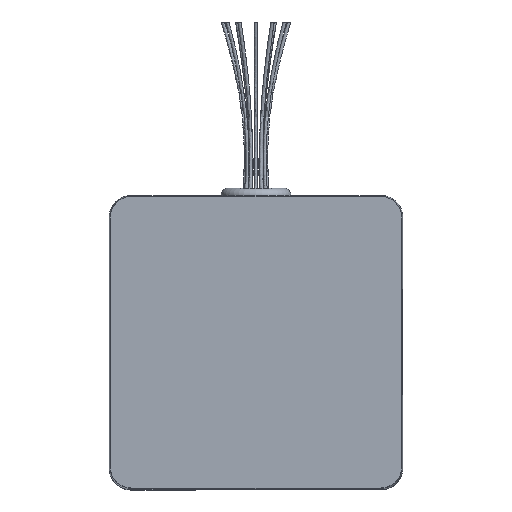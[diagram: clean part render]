
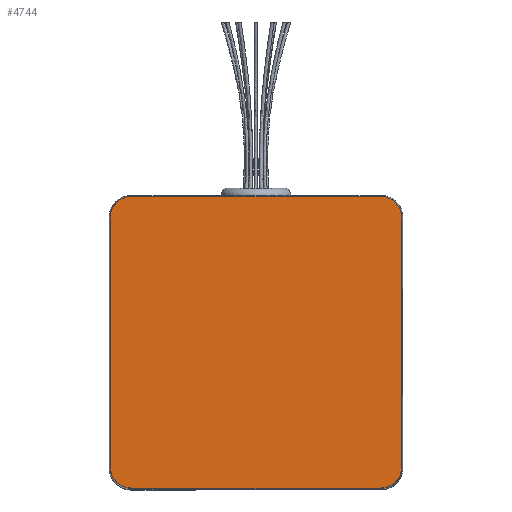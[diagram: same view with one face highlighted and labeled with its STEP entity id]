
A CAD part, top view. The second image highlights one B-rep face of the part: STEP entity #4744.
In plain terms, the highlighted planar face has unit normal (0, 0, 1).
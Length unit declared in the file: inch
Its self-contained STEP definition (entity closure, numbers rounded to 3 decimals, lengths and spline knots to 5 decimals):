
#4054=CARTESIAN_POINT('',(0.0,1.675,6.195));
#4055=VERTEX_POINT('',#4054);
#4099=CARTESIAN_POINT('',(-1.425,1.675,6.195));
#4100=VERTEX_POINT('',#4099);
#4107=CARTESIAN_POINT('',(-1.425,1.675,6.195));
#4108=DIRECTION('',(1.0,0.0,0.0));
#4109=VECTOR('',#4108,1.425);
#4110=LINE('',#4107,#4109);
#4111=EDGE_CURVE('',#4100,#4055,#4110,.T.);
#4122=CARTESIAN_POINT('',(1.425,1.675,6.195));
#4123=VERTEX_POINT('',#4122);
#4124=CARTESIAN_POINT('',(0.0,1.675,6.195));
#4125=DIRECTION('',(1.0,0.0,0.0));
#4126=VECTOR('',#4125,1.425);
#4127=LINE('',#4124,#4126);
#4128=EDGE_CURVE('',#4055,#4123,#4127,.T.);
#4267=CARTESIAN_POINT('',(1.675,1.425,6.195));
#4268=VERTEX_POINT('',#4267);
#4275=CARTESIAN_POINT('',(1.675,-1.425,6.195));
#4276=VERTEX_POINT('',#4275);
#4277=CARTESIAN_POINT('',(1.675,1.425,6.195));
#4278=DIRECTION('',(0.0,-1.0,0.0));
#4279=VECTOR('',#4278,2.85);
#4280=LINE('',#4277,#4279);
#4281=EDGE_CURVE('',#4268,#4276,#4280,.T.);
#4345=CARTESIAN_POINT('',(1.425,1.425,6.195));
#4346=DIRECTION('',(0.0,0.0,-1.));
#4347=DIRECTION('',(0.707,0.707,0.0));
#4348=AXIS2_PLACEMENT_3D('',#4345,#4346,#4347);
#4349=CIRCLE('',#4348,0.25);
#4350=EDGE_CURVE('',#4123,#4268,#4349,.T.);
#4434=CARTESIAN_POINT('',(-1.675,1.425,6.195));
#4435=VERTEX_POINT('',#4434);
#4442=CARTESIAN_POINT('',(-1.425,1.425,6.195));
#4443=DIRECTION('',(0.0,0.0,-1.));
#4444=DIRECTION('',(-0.707,0.707,0.0));
#4445=AXIS2_PLACEMENT_3D('',#4442,#4443,#4444);
#4446=CIRCLE('',#4445,0.25);
#4447=EDGE_CURVE('',#4435,#4100,#4446,.T.);
#4520=CARTESIAN_POINT('',(1.425,-1.675,6.195));
#4521=VERTEX_POINT('',#4520);
#4528=CARTESIAN_POINT('',(-1.425,-1.675,6.195));
#4529=VERTEX_POINT('',#4528);
#4530=CARTESIAN_POINT('',(1.425,-1.675,6.195));
#4531=DIRECTION('',(-1.0,0.0,0.0));
#4532=VECTOR('',#4531,2.85);
#4533=LINE('',#4530,#4532);
#4534=EDGE_CURVE('',#4521,#4529,#4533,.T.);
#4552=CARTESIAN_POINT('',(1.425,-1.425,6.195));
#4553=DIRECTION('',(0.0,0.0,-1.));
#4554=DIRECTION('',(0.707,-0.707,0.0));
#4555=AXIS2_PLACEMENT_3D('',#4552,#4553,#4554);
#4556=CIRCLE('',#4555,0.25);
#4557=EDGE_CURVE('',#4276,#4521,#4556,.T.);
#4704=CARTESIAN_POINT('',(-1.675,-1.425,6.195));
#4705=VERTEX_POINT('',#4704);
#4712=CARTESIAN_POINT('',(-1.675,-1.425,6.195));
#4713=DIRECTION('',(0.0,1.0,0.0));
#4714=VECTOR('',#4713,2.85);
#4715=LINE('',#4712,#4714);
#4716=EDGE_CURVE('',#4705,#4435,#4715,.T.);
#4722=CARTESIAN_POINT('',(0.,0.,6.195));
#4723=DIRECTION('',(0.0,0.0,1.0));
#4724=DIRECTION('',(1.0,0.0,0.0));
#4725=AXIS2_PLACEMENT_3D('',#4722,#4723,#4724);
#4726=PLANE('',#4725);
#4727=CARTESIAN_POINT('',(-1.425,-1.425,6.195));
#4728=DIRECTION('',(0.0,0.0,-1.));
#4729=DIRECTION('',(-0.707,-0.707,0.0));
#4730=AXIS2_PLACEMENT_3D('',#4727,#4728,#4729);
#4731=CIRCLE('',#4730,0.25);
#4732=EDGE_CURVE('',#4529,#4705,#4731,.T.);
#4733=ORIENTED_EDGE('',*,*,#4732,.F.);
#4734=ORIENTED_EDGE('',*,*,#4534,.F.);
#4735=ORIENTED_EDGE('',*,*,#4557,.F.);
#4736=ORIENTED_EDGE('',*,*,#4281,.F.);
#4737=ORIENTED_EDGE('',*,*,#4350,.F.);
#4738=ORIENTED_EDGE('',*,*,#4128,.F.);
#4739=ORIENTED_EDGE('',*,*,#4111,.F.);
#4740=ORIENTED_EDGE('',*,*,#4447,.F.);
#4741=ORIENTED_EDGE('',*,*,#4716,.F.);
#4742=EDGE_LOOP('',(#4733,#4734,#4735,#4736,#4737,#4738,#4739,#4740,#4741));
#4743=FACE_OUTER_BOUND('',#4742,.T.);
#4744=ADVANCED_FACE('',(#4743),#4726,.T.);
